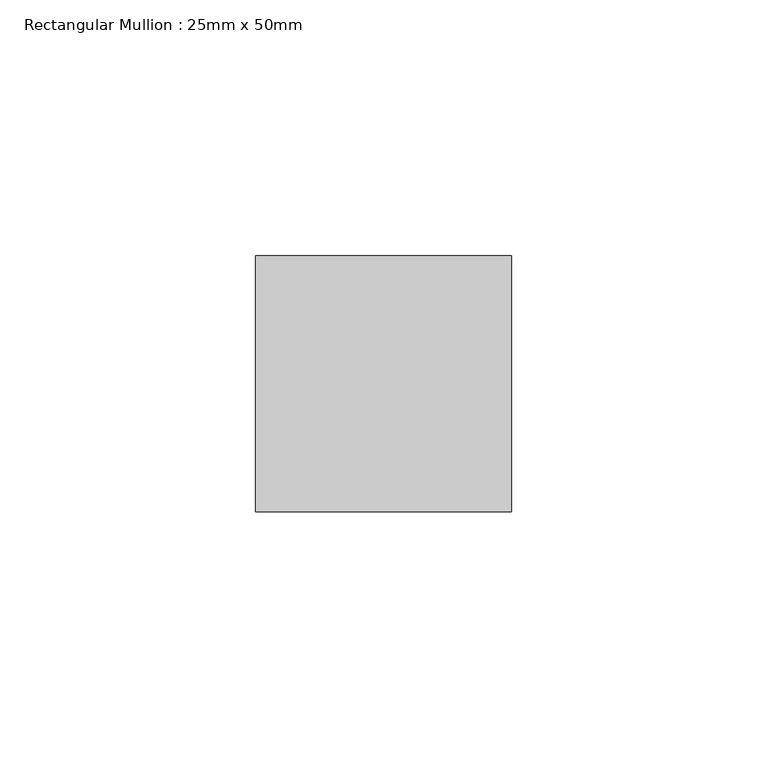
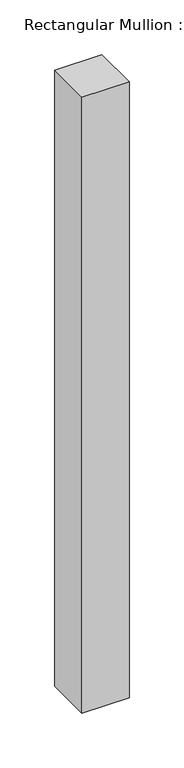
"""IFC4 building model written with IfcOpenShell, lengths in millimetres: member geometry, Rectangular Mullion : 25mm x 50mm."""

import ifcopenshell
import ifcopenshell.guid

model = None  # the IFC model being written
_history = None  # IfcOwnerHistory: only IFC2X3 demands one
_inside = {}  # id of a spatial element -> (the spatial element, [elements in it])
_under = {}  # id of a project, library or spatial element -> (it, [spatial elements below it])
_declared = {}  # id of a project -> (the project, [libraries it declares])
_typed = {}  # id of a type object -> (the type object, [elements of that type])
_made_of = {}  # id of a material, layer set ... -> (it, [elements and type objects made of it])


def new_model(schema):
    """Start an empty IFC model of exactly this schema.

    Asked for "IFC4X3", IfcOpenShell would pick the latest addendum, in which some entities
    have other attributes; the version numbers below select the first issue.
    IFC2X3 requires an IfcOwnerHistory on every rooted entity: one is made here for all.
    """
    global model, _history
    if schema == "IFC4X3":
        model = ifcopenshell.file(schema_version=(4, 3, 0, 0))
    else:
        model = ifcopenshell.file(schema=schema)
    _inside.clear()
    _under.clear()
    _declared.clear()
    _typed.clear()
    _made_of.clear()
    _history = None
    if model.schema == "IFC2X3":
        org = make("IfcOrganization", Name="unknown")
        user = make(
            "IfcPersonAndOrganization",
            ThePerson=make("IfcPerson", FamilyName="unknown"),
            TheOrganization=org,
        )
        app = make(
            "IfcApplication",
            ApplicationDeveloper=org,
            Version="unknown",
            ApplicationFullName="unknown",
            ApplicationIdentifier="unknown",
        )
        _history = make(
            "IfcOwnerHistory",
            OwningUser=user,
            OwningApplication=app,
            ChangeAction="ADDED",
            CreationDate=0,
        )
    return model


def make(cls, **values):
    """One entity of the class cls with the attributes given. An attribute that is None is left unset."""
    return model.create_entity(
        cls, **{name: value for name, value in values.items() if value is not None}
    )


def rooted(cls, **values):
    """An entity with a GlobalId (a new one), such as an element, a storey or a relation."""
    return make(cls, GlobalId=ifcopenshell.guid.new(), OwnerHistory=_history, **values)


def si_unit(unit_type, name, prefix=None):
    """IfcSIUnit, for example si_unit("LENGTHUNIT", "METRE", prefix="MILLI")."""
    return make("IfcSIUnit", UnitType=unit_type, Prefix=prefix, Name=name)


def assignment(units):
    """IfcUnitAssignment: the units of a project."""
    return None if units is None else make("IfcUnitAssignment", Units=units)


def point(xyz):
    """IfcCartesianPoint."""
    return None if xyz is None else make("IfcCartesianPoint", Coordinates=xyz)


def direction(xyz):
    """IfcDirection."""
    return None if xyz is None else make("IfcDirection", DirectionRatios=xyz)


def frame(location, z_axis=None, x_axis=None):
    """IfcAxis2Placement3D, a coordinate frame: its origin and axes. An axis left out is left unset."""
    return make(
        "IfcAxis2Placement3D",
        Location=point(location),
        Axis=direction(z_axis),
        RefDirection=direction(x_axis),
    )


def origin():
    """The frame at (0, 0, 0) with its axes left unset."""
    return frame((0.0, 0.0, 0.0))


def place(relative_to, where):
    """IfcLocalPlacement: puts the frame where relative to a parent placement (None: the world)."""
    return make(
        "IfcLocalPlacement", PlacementRelTo=relative_to, RelativePlacement=where
    )


def context(
    kind, dimensions, precision=None, world=None, true_north=None, identifier=None
):
    """IfcGeometricRepresentationContext, for example the 3D "Model" context."""
    return make(
        "IfcGeometricRepresentationContext",
        ContextIdentifier=identifier,
        ContextType=kind,
        CoordinateSpaceDimension=dimensions,
        Precision=precision,
        WorldCoordinateSystem=world,
        TrueNorth=true_north,
    )


def project(units=None, contexts=None):
    """IfcProject with its units and contexts."""
    return rooted(
        "IfcProject",
        Name="project",
        RepresentationContexts=contexts,
        UnitsInContext=assignment(units),
    )


def spatial(cls, under=None, at=None, **own):
    """A site, building, storey or space (cls), placed at a placement, below another one or the project."""
    s = rooted(cls, ObjectPlacement=at, **own)
    if under is not None:
        _under.setdefault(under.id(), (under, []))[1].append(s)
    return s


def polyline(points):
    """IfcPolyline through the points."""
    return make("IfcPolyline", Points=[point(p) for p in points])


def outline(outer, holes=None, kind="AREA"):
    """IfcArbitraryClosedProfileDef: a profile drawn as a closed curve; with holes, ...WithVoids."""
    if holes is None:
        return make("IfcArbitraryClosedProfileDef", ProfileType=kind, OuterCurve=outer)
    return make(
        "IfcArbitraryProfileDefWithVoids",
        ProfileType=kind,
        OuterCurve=outer,
        InnerCurves=holes,
    )


def extrude(swept, where, along, depth):
    """IfcExtrudedAreaSolid: the profile swept, set in the frame where, extruded along a direction by depth."""
    return make(
        "IfcExtrudedAreaSolid",
        SweptArea=swept,
        Position=where,
        ExtrudedDirection=direction(along),
        Depth=depth,
    )


def shape(context_of_items, identifier, shape_type, items):
    """IfcShapeRepresentation: the items that make up one representation, for example the "Body"."""
    return make(
        "IfcShapeRepresentation",
        ContextOfItems=context_of_items,
        RepresentationIdentifier=identifier,
        RepresentationType=shape_type,
        Items=items,
    )


def source(mapping_origin, context_of_items, identifier, shape_type, items):
    """IfcRepresentationMap: a shape defined once, which mapped items show again and again."""
    return make(
        "IfcRepresentationMap",
        MappingOrigin=mapping_origin,
        MappedRepresentation=shape(context_of_items, identifier, shape_type, items),
    )


def transform(
    local_origin,
    x_axis=None,
    y_axis=None,
    z_axis=None,
    scale=None,
    scale2=None,
    scale3=None,
    uniform=True,
):
    """IfcCartesianTransformationOperator3D, or its non-uniform kind. x_axis, y_axis, z_axis: its Axis1, 2, 3."""
    if uniform:
        return make(
            "IfcCartesianTransformationOperator3D",
            Axis1=direction(x_axis),
            Axis2=direction(y_axis),
            LocalOrigin=point(local_origin),
            Scale=scale,
            Axis3=direction(z_axis),
        )
    return make(
        "IfcCartesianTransformationOperator3DnonUniform",
        Axis1=direction(x_axis),
        Axis2=direction(y_axis),
        LocalOrigin=point(local_origin),
        Scale=scale,
        Axis3=direction(z_axis),
        Scale2=scale2,
        Scale3=scale3,
    )


def mapped(mapping_source, mapping_target):
    """IfcMappedItem: shows the shape of a source again, moved by a transform."""
    return make(
        "IfcMappedItem", MappingSource=mapping_source, MappingTarget=mapping_target
    )


def made_of(thing, what):
    """Note that an element or type object is made of a material, layer set ...; save() writes the relation."""
    if what is not None:
        _made_of.setdefault(what.id(), (what, []))[1].append(thing)
    return thing


def element(
    cls,
    number,
    at=None,
    inside=None,
    cuts=None,
    type_object=None,
    material=None,
    context=None,
    identifier="Body",
    shape_type=None,
    held_by="IfcProductDefinitionShape",
    body=None,
    shapes=None,
    **own,
):
    """One element of the class cls, such as IfcWall. Its Tag is "e" and its number.

    at: its placement. inside: the storey or other place that contains it. cuts: it is an
    opening in that element (IfcRelVoidsElement). A single representation is given by context,
    identifier, shape_type and body (its items); several are given by shapes. held_by: the class
    of the entity that holds the representations. save() writes the other relations.
    """
    e = rooted(cls, Tag="e%d" % number, ObjectPlacement=at, **own)
    if body is not None:
        shapes = [shape(context, identifier, shape_type, body)]
    if shapes is not None:
        e.Representation = make(held_by, Representations=shapes)
    if inside is not None:
        _inside.setdefault(inside.id(), (inside, []))[1].append(e)
    if cuts is not None:
        rooted(
            "IfcRelVoidsElement", RelatingBuildingElement=cuts, RelatedOpeningElement=e
        )
    if type_object is not None:
        _typed.setdefault(type_object.id(), (type_object, []))[1].append(e)
    return made_of(e, material)


def aggregate(whole, parts):
    """IfcRelAggregates: a whole, such as a stair, and the parts it consists of."""
    return rooted("IfcRelAggregates", RelatingObject=whole, RelatedObjects=parts)


def save(model, path):
    """Write the relations noted so far, then the file.

    IfcRelAggregates (storeys below a building ...), IfcRelContainedInSpatialStructure (elements
    in a storey), IfcRelDefinesByType, IfcRelAssociatesMaterial and IfcRelDeclares: one each for
    every whole, place, type object, material and project.
    """
    for whole, parts in _under.values():
        aggregate(whole, parts)
    for where, things in _inside.values():
        rooted(
            "IfcRelContainedInSpatialStructure",
            RelatedElements=things,
            RelatingStructure=where,
        )
    for kind, things in _typed.values():
        rooted("IfcRelDefinesByType", RelatedObjects=things, RelatingType=kind)
    for what, things in _made_of.values():
        rooted("IfcRelAssociatesMaterial", RelatedObjects=things, RelatingMaterial=what)
    for by, libraries in _declared.values():
        rooted("IfcRelDeclares", RelatingContext=by, RelatedDefinitions=libraries)
    model.write(path)


def rectangular_mullion_25mm_x_50mm_d659e5e6(model_context):
    return source(origin(), model_context, "Body", "SweptSolid", [
        extrude(outline(polyline([(25.0, 25.0), (25.0, -25.0), (-25.0, -25.0), (-25.0, 25.0), (25.0, 25.0)])), frame((0.0, 0.0, -687.7658765), z_axis=(0.0, 0.0, 1.0), x_axis=(1.0, 0.0, 0.0)), (0.0, 0.0, 1.0), 687.7658765),
    ])


if __name__ == "__main__":
    model = new_model("IFC4")
    model_context = context("Model", 3, world=origin())
    ifc_project = project(units=[si_unit("LENGTHUNIT", "METRE", prefix="MILLI")], contexts=[model_context])
    site = spatial("IfcSite", under=ifc_project)
    building = spatial("IfcBuilding", under=site)
    placement = place(None, origin())
    rectangular_mullion_25mm_x_50mm_shape = rectangular_mullion_25mm_x_50mm_d659e5e6(model_context)
    element("IfcMember", 1, ObjectType="Rectangular Mullion : 25mm x 50mm", at=placement, inside=building, context=model_context, shape_type="MappedRepresentation", body=[
        mapped(rectangular_mullion_25mm_x_50mm_shape, transform((0.0, 0.0, 0.0), x_axis=(1.0, 0.0, 0.0), y_axis=(0.0, 1.0, 0.0), z_axis=(0.0, 0.0, 1.0))),
    ])
    save(model, "model.ifc")
